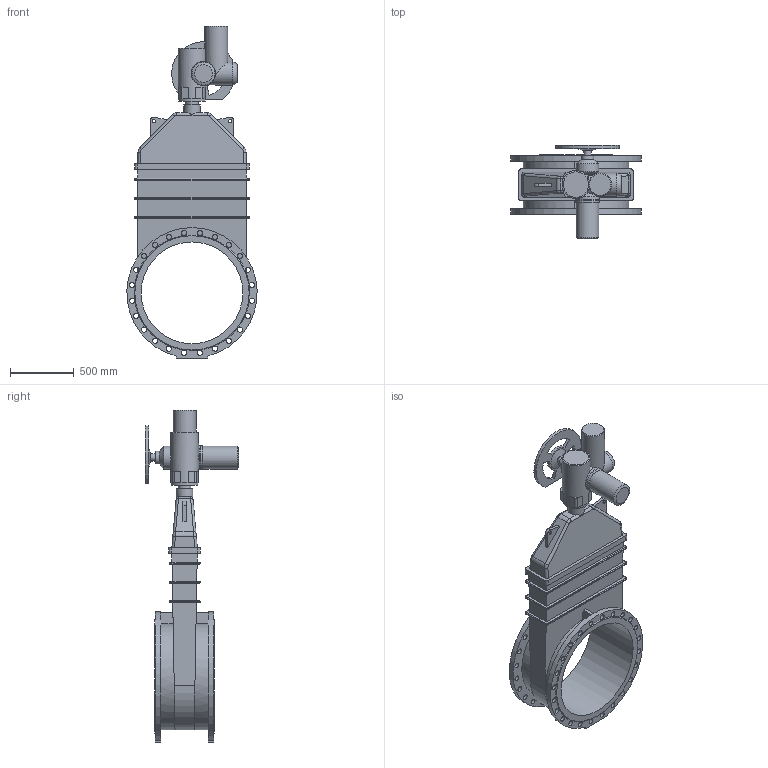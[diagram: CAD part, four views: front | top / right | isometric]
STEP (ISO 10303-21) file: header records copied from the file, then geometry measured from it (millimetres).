
FILE_DESCRIPTION(('STEP AP203'), '1');
FILE_NAME('青溻桄赅 47GVA DN800 PN10_PN16+MT903.A100', '', ('UNSPECIFIED'), ('UNSPECIFIED'), 'ASCON STEP Converter 1.6', 'ASCON Math Kernel', '');
FILE_SCHEMA(('CONFIG_CONTROL_DESIGN'));
Length unit declared in the file: millimetre
Bounding box: 1024.26 x 733 x 2610.5 mm (x, y, z)
Volume: 253843324.6 mm3; surface area: 7819433.3 mm2
Topology: 2 solids, 2 shells, 334 faces, 932 edges, 581 vertices
Faces by surface type: cylinder 161, plane 129, bspline 32, cone 11, torus 1
Full cylindrical faces by diameter (mm): 17.5 x4, 22 x4, 25 x2, 41 x48, 50 x1, 60 x1, 100 x2, 130 x3, 140 x1, 180 x4, 187 x1, 191 x1, 210 x1, 220 x1, 800 x1
Entity records: 16721 total; most frequent: CARTESIAN_POINT 5708, DIRECTION 1698, ORIENTED_EDGE 1644, EDGE_CURVE 822, AXIS2_PLACEMENT_3D 676, VERTEX_POINT 567, EDGE_LOOP 565, FACE_BOUND 445
